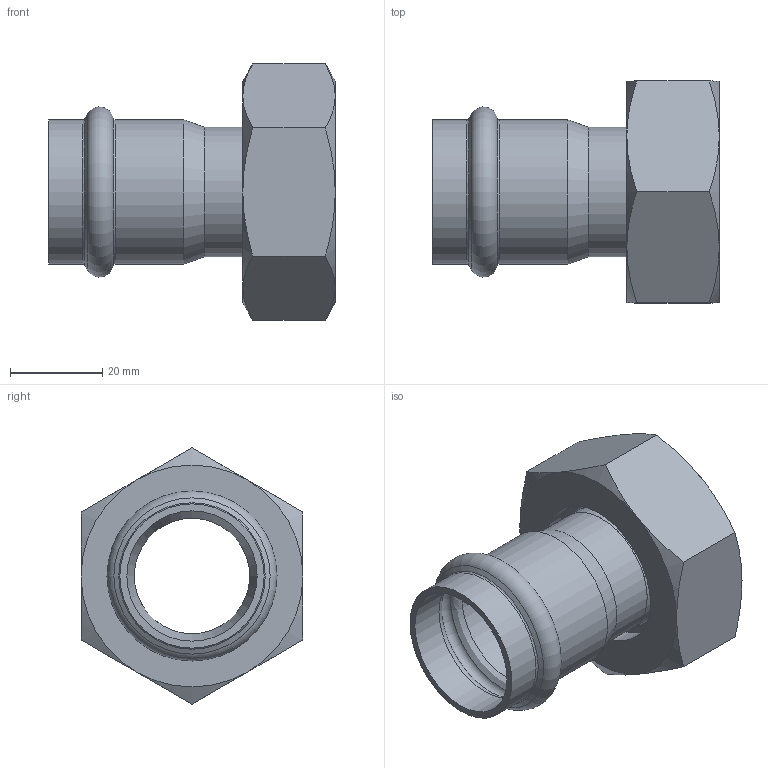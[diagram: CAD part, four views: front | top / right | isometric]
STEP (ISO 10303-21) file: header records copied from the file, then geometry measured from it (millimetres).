
FILE_DESCRIPTION((''),'2;1');
FILE_NAME('G:\Nirosan-Schmiedefeld\Technics\CAD\Bauteile VA\028\69359mms28114(1).stp','2011-05-25T09:57:22',('herberg'),(''),'Autodesk Inventor 2009','Autodesk Inventor 2009','');
FILE_SCHEMA(('AUTOMOTIVE_DESIGN { 1 0 10303 214 1 1 1 1 }'));
Length unit declared in the file: millimetre
Products named in the file (5): 69359mms28114(1); HM_6924328(1); R28114(0); FD_3827_EPDM(0); MS_SM28114(2)
Assembly tree (4 placements, depth 2):
  69359mms28114(1)
    HM_6924328(1)
    R28114(0)
    FD_3827_EPDM(0)
    MS_SM28114(2)
Bounding box: 62 x 48 x 55.43 mm (x, y, z)
Volume: 27660 mm3; surface area: 20635.6 mm2
Topology: 4 solids, 4 shells, 54 faces, 105 edges, 61 vertices
Faces by surface type: cone 18, plane 15, cylinder 11, bspline 8, torus 2
Full cylindrical faces by diameter (mm): 25 x2, 27 x1, 28 x2, 28.2 x2, 31.2 x2, 38 x2
Entity records: 1586 total; most frequent: CARTESIAN_POINT 504, DIRECTION 210, ORIENTED_EDGE 154, AXIS2_PLACEMENT_3D 102, EDGE_LOOP 90, EDGE_CURVE 77, VERTEX_POINT 59, FACE_OUTER_BOUND 54
